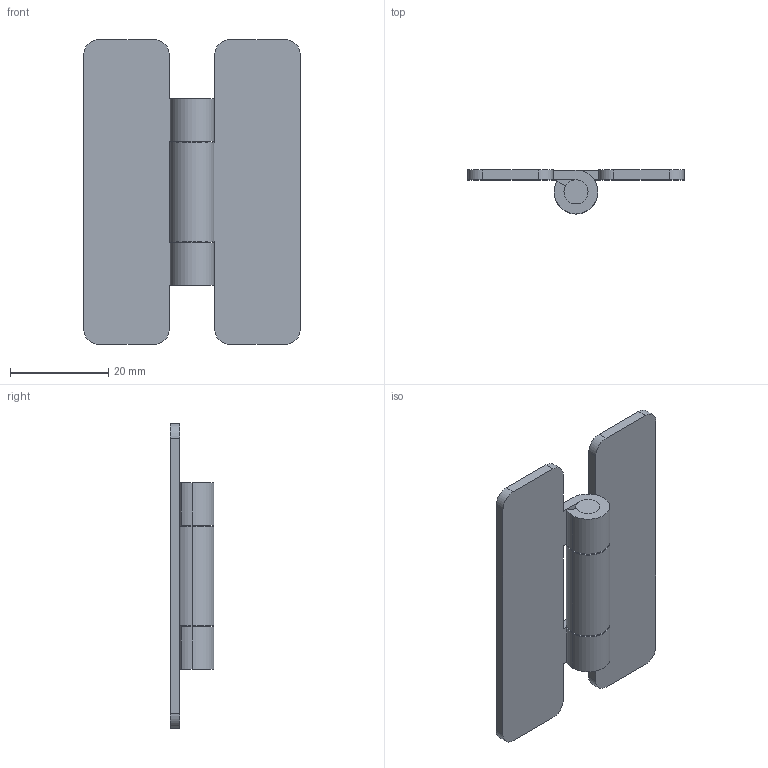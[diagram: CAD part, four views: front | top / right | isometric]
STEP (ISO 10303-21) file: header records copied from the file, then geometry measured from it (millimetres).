
FILE_DESCRIPTION((''),'2;1');
FILE_NAME('6048.01.stp','2015-07-20T11:07:23',(''),(''),'Mechanical Desktop 2006','Mechanical Desktop 2006',', , ');
FILE_SCHEMA(('CONFIG_CONTROL_DESIGN'));
Length unit declared in the file: millimetre
Products named in the file (1): 6048.01
Bounding box: 44 x 8.9 x 62 mm (x, y, z)
Volume: 6687.5 mm3; surface area: 6964 mm2
Topology: 2 solids, 2 shells, 52 faces, 144 edges, 96 vertices
Faces by surface type: cylinder 26, plane 26
Entity records: 1777 total; most frequent: DIRECTION 306, CARTESIAN_POINT 293, ORIENTED_EDGE 288, EDGE_CURVE 144, AXIS2_PLACEMENT_3D 109, VERTEX_POINT 96, VECTOR 88, LINE 88
